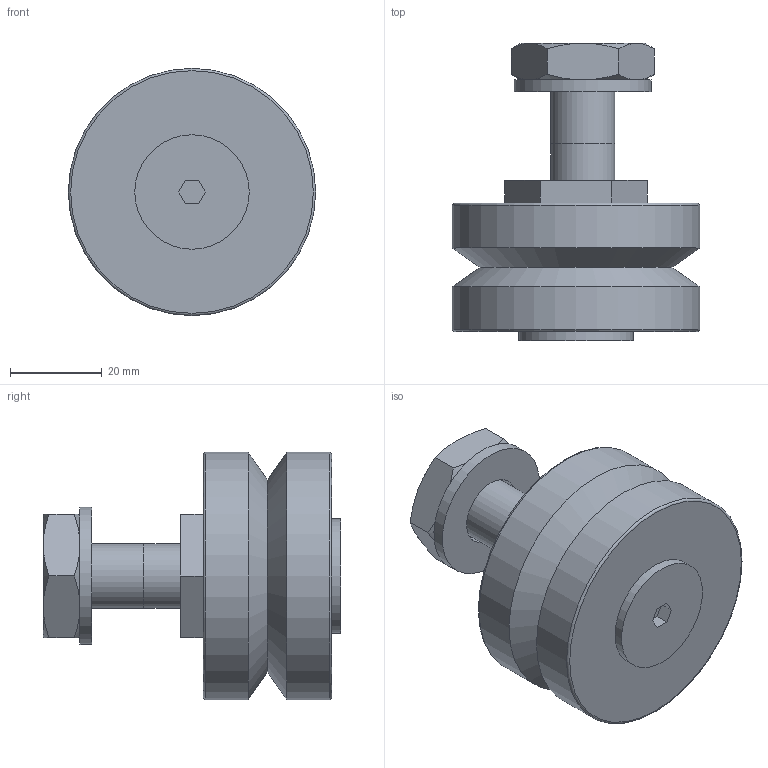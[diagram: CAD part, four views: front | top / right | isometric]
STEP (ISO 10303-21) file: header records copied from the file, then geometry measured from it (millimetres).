
FILE_DESCRIPTION(('STEP AP203'),'1');
FILE_NAME('//192.168.1.1/share/s-4 技術開発/s-4-4_CAD/s-4-4-6_見直し、確認済み/013 修正済み(済)/ジャーナル_TOP/NAL/NAL-54-E.step','2022-03-11T07:26:33',(' '),(' '),'Spatial InterOp 3D',' ',' ');
FILE_SCHEMA(('CONFIG_CONTROL_DESIGN'));
Length unit declared in the file: millimetre
Products named in the file (3): 1; 2; 3
Bounding box: 54 x 64.95 x 54 mm (x, y, z)
Volume: 74109.3 mm3; surface area: 15524.4 mm2
Topology: 3 solids, 3 shells, 59 faces, 130 edges, 81 vertices
Faces by surface type: plane 34, cone 14, cylinder 8, torus 2, sphere 1
Full cylindrical faces by diameter (mm): 12 x1, 14 x2, 15 x1, 25 x1, 30 x1, 54 x2
Entity records: 1748 total; most frequent: CARTESIAN_POINT 398, DIRECTION 250, ORIENTED_EDGE 228, EDGE_CURVE 114, AXIS2_PLACEMENT_3D 98, EDGE_LOOP 80, VERTEX_POINT 78, FACE_OUTER_BOUND 70
